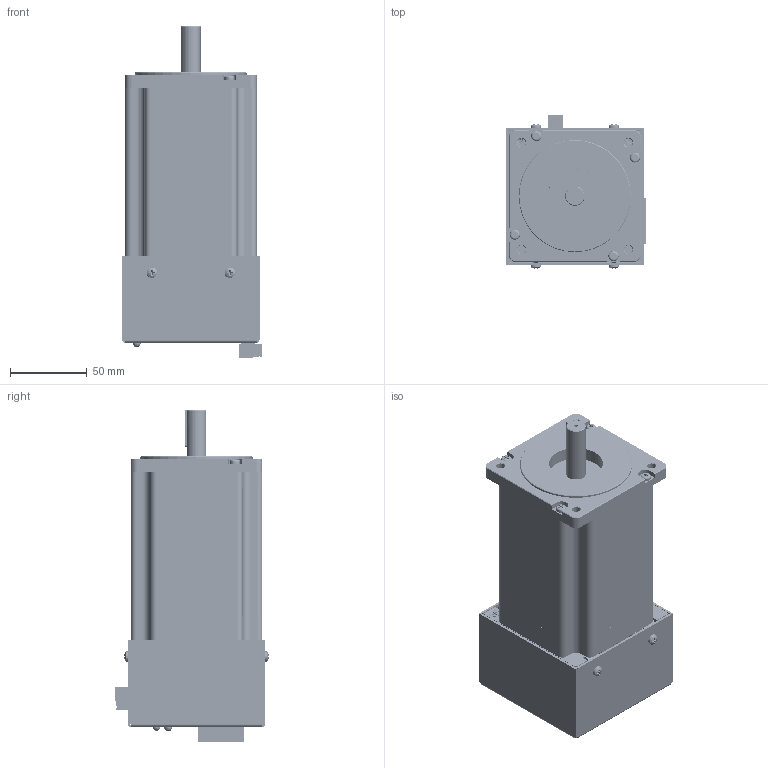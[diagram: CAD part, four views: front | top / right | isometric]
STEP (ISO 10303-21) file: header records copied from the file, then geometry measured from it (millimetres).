
FILE_DESCRIPTION (( 'STEP AP214' ), '1' );
FILE_NAME ('34MD214S.STEP', '2009-08-18T16:09:43', ( 'Tim Raines' ), ( 'Anaheim Automation' ), 'SwSTEP 2.0', 'SolidWorks 2009', '' );
FILE_SCHEMA (( 'AUTOMOTIVE_DESIGN' ));
Length unit declared in the file: millimetre
Products named in the file (38): Standoff, 6-32x.250_STD-63212H; CAP-0221; 34YXXXS-LW4-01 with connector_34Y214S-LW4-01; CON-0069; 34MD214S; LED-SPR5731_LED-SPR5731-GRN; 34YXXXS-LW4-01 for 34MD Series_34Y214S-LW8; LED-LTM Series_LED-LTM380; LED-LTM Series_LED-LTM420; Base Plate, 34MD Series; CON-6404284; RES-3W-.05; Flat Head Screw_AI_CR-FHMS 0.138-32x0.375x0.375-S; Heat Sink, 34MD Series; AA4811B-1PCB; Socket Head Cap Screw_AM_B18.3.1M - 4 x 0.7 x 8 Hex SHCS -- 8SHX; AA4811BPCB; Pan Cross Head_AI_CR-PHMS 0.138-32x0.5x0.5-S; Standoff, 6-32x.250, ROUND_6-32 x .250; 1754449; 1754520; Pan Cross Head_AI_CR-PHMS 0.138-32x0.25x0.25-S; Cover, 34MD Series; 1755558; CON-0068; POT-PT10LV10K; LED-SPR5731_LED-SPR5731-YEL; LED-LTM Series_LED-LTM250; CON-0050; Pan Cross Head_AI_CR-PHMS 0.112-40x0.25x0.25-S; WSH-KE3049; CON-929834-01-03; AA4810APCB; AA4810-1PCB; TRS-IRFB4710PBF; 1757475; Standoff, 6-32x.250_STD-6321.0H; STD-63212H-M-F_STD-63212H
Assembly tree (85 placements, depth 3):
  34MD214S
    Socket Head Cap Screw_AM_B18.3.1M - 4 x 0.7 x 8 Hex SHCS -- 8SHX  x4
    Pan Cross Head_AI_CR-PHMS 0.138-32x0.25x0.25-S  x8
    Flat Head Screw_AI_CR-FHMS 0.138-32x0.375x0.375-S  x4
    Base Plate, 34MD Series
    1754449
    AA4810-1PCB
      LED-SPR5731_LED-SPR5731-YEL
      1755558
      POT-PT10LV10K
      LED-LTM Series_LED-LTM250
      AA4810APCB
      CON-0068
      CON-929834-01-03
    Cover, 34MD Series
    34YXXXS-LW4-01 with connector_34Y214S-LW4-01
      CON-6404284
      34YXXXS-LW4-01 for 34MD Series_34Y214S-LW8
    1754520
    AA4811B-1PCB
      RES-3W-.05  x4
      AA4811BPCB
      WSH-KE3049  x9
      TRS-IRFB4710PBF  x9
      Pan Cross Head_AI_CR-PHMS 0.112-40x0.25x0.25-S  x9
      1757475
      Standoff, 6-32x.250_STD-63212H  x2
      CON-0069
      Pan Cross Head_AI_CR-PHMS 0.138-32x0.5x0.5-S  x2
      CAP-0221  x2
      LED-SPR5731_LED-SPR5731-GRN
      Standoff, 6-32x.250_STD-6321.0H  x2
      LED-LTM Series_LED-LTM420
      Pan Cross Head_AI_CR-PHMS 0.138-32x0.25x0.25-S  x2
      LED-LTM Series_LED-LTM380
      Heat Sink, 34MD Series
      CON-0050
      STD-63212H-M-F_STD-63212H  x2
      Standoff, 6-32x.250, ROUND_6-32 x .250  x2
Bounding box: 90.9 x 100.05 x 216.21 mm (x, y, z)
Volume: 925513.5 mm3; surface area: 195689.2 mm2
Topology: 82 solids, 82 shells, 7844 faces, 19743 edges, 12467 vertices
Faces by surface type: plane 4215, cylinder 1579, cone 1337, bspline 562, torus 107, sphere 44
Entity records: 237301 total; most frequent: CARTESIAN_POINT 61799, ORIENTED_EDGE 26286, DIRECTION 23806, EDGE_CURVE 13143, VECTOR 9448, LINE 9448, VERTEX_POINT 8390, AXIS2_PLACEMENT_3D 7179
